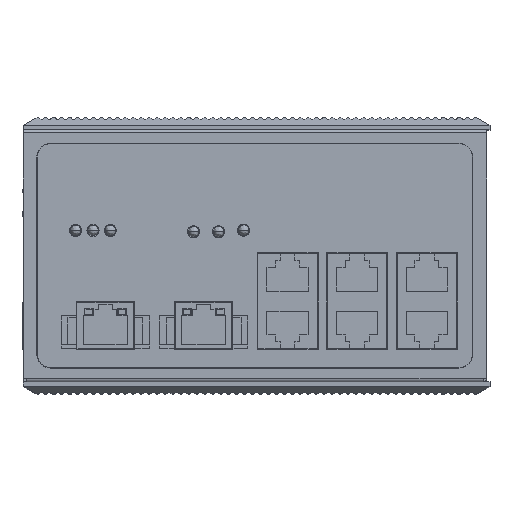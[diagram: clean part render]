
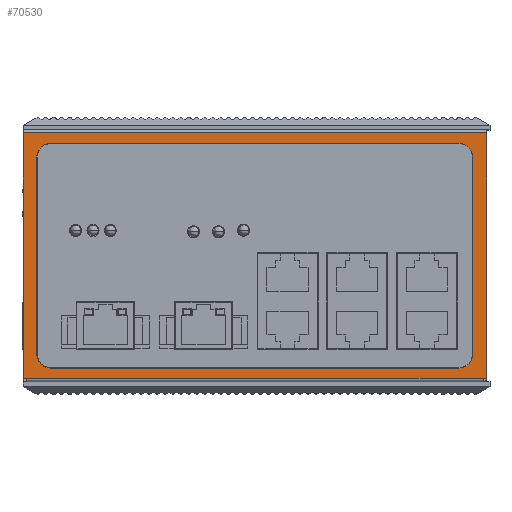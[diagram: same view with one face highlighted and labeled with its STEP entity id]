
A CAD part, top view. The second image highlights one B-rep face of the part: STEP entity #70530.
In plain terms, the highlighted planar face has unit normal (0, 0, -1).
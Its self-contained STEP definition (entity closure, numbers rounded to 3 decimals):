
#58093=DIRECTION('',(-1.,0.,0.));
#58094=VECTOR('',#58093,132.);
#58095=CARTESIAN_POINT('',(66.,0.,52.45));
#58096=LINE('',#58095,#58094);
#58101=DIRECTION('',(0.,-1.,0.));
#58102=VECTOR('',#58101,71.);
#58103=CARTESIAN_POINT('',(-67.,71.,52.45));
#58104=LINE('',#58103,#58102);
#58105=DIRECTION('',(1.,0.,0.));
#58106=VECTOR('',#58105,1.);
#58107=CARTESIAN_POINT('',(-67.,0.,52.45));
#58108=LINE('',#58107,#58106);
#58109=DIRECTION('',(1.,0.,0.));
#58110=VECTOR('',#58109,1.);
#58111=CARTESIAN_POINT('',(66.,0.,52.45));
#58112=LINE('',#58111,#58110);
#58113=DIRECTION('',(0.,1.,0.));
#58114=VECTOR('',#58113,71.);
#58115=CARTESIAN_POINT('',(67.,0.,52.45));
#58116=LINE('',#58115,#58114);
#58117=CARTESIAN_POINT('',(59.,7.,52.45));
#58118=DIRECTION('',(0.,0.,-1.));
#58119=DIRECTION('',(1.,0.,0.));
#58120=AXIS2_PLACEMENT_3D('',#58117,#58118,#58119);
#58122=CARTESIAN_POINT('',(-59.,7.,52.45));
#58123=DIRECTION('',(0.,0.,-1.));
#58124=DIRECTION('',(0.,-1.,0.));
#58125=AXIS2_PLACEMENT_3D('',#58122,#58123,#58124);
#58127=CARTESIAN_POINT('',(-59.,64.,52.45));
#58128=DIRECTION('',(0.,0.,-1.));
#58129=DIRECTION('',(-1.,0.,0.));
#58130=AXIS2_PLACEMENT_3D('',#58127,#58128,#58129);
#58132=CARTESIAN_POINT('',(59.,64.,52.45));
#58133=DIRECTION('',(0.,0.,-1.));
#58134=DIRECTION('',(0.,1.,0.));
#58135=AXIS2_PLACEMENT_3D('',#58132,#58133,#58134);
#58141=DIRECTION('',(1.,0.,0.));
#58142=VECTOR('',#58141,134.);
#58143=CARTESIAN_POINT('',(-67.,71.,52.45));
#58144=LINE('',#58143,#58142);
#62465=DIRECTION('',(0.,1.,0.));
#62466=VECTOR('',#62465,57.);
#62467=CARTESIAN_POINT('',(63.,7.,52.45));
#62468=LINE('',#62467,#62466);
#62477=DIRECTION('',(-1.,0.,0.));
#62478=VECTOR('',#62477,118.);
#62479=CARTESIAN_POINT('',(59.,68.,52.45));
#62480=LINE('',#62479,#62478);
#62489=DIRECTION('',(0.,-1.,0.));
#62490=VECTOR('',#62489,57.);
#62491=CARTESIAN_POINT('',(-63.,64.,52.45));
#62492=LINE('',#62491,#62490);
#62501=DIRECTION('',(1.,0.,0.));
#62502=VECTOR('',#62501,118.);
#62503=CARTESIAN_POINT('',(-59.,3.,52.45));
#62504=LINE('',#62503,#62502);
#63654=CARTESIAN_POINT('',(-67.,71.,52.45));
#63655=VERTEX_POINT('',#63654);
#63656=CARTESIAN_POINT('',(-67.,0.,52.45));
#63657=VERTEX_POINT('',#63656);
#63658=CARTESIAN_POINT('',(-66.,0.,52.45));
#63659=VERTEX_POINT('',#63658);
#64506=CARTESIAN_POINT('',(66.,0.,52.45));
#64507=VERTEX_POINT('',#64506);
#64508=CARTESIAN_POINT('',(67.,71.,52.45));
#64509=VERTEX_POINT('',#64508);
#64510=CARTESIAN_POINT('',(67.,0.,52.45));
#64511=VERTEX_POINT('',#64510);
#64512=CARTESIAN_POINT('',(63.,7.,52.45));
#64513=CARTESIAN_POINT('',(63.,64.,52.45));
#64514=VERTEX_POINT('',#64512);
#64515=VERTEX_POINT('',#64513);
#64516=CARTESIAN_POINT('',(59.,3.,52.45));
#64517=VERTEX_POINT('',#64516);
#64518=CARTESIAN_POINT('',(-59.,3.,52.45));
#64519=VERTEX_POINT('',#64518);
#64520=CARTESIAN_POINT('',(-63.,7.,52.45));
#64521=VERTEX_POINT('',#64520);
#64522=CARTESIAN_POINT('',(-63.,64.,52.45));
#64523=VERTEX_POINT('',#64522);
#64524=CARTESIAN_POINT('',(-59.,68.,52.45));
#64525=VERTEX_POINT('',#64524);
#64526=CARTESIAN_POINT('',(59.,68.,52.45));
#64527=VERTEX_POINT('',#64526);
#70496=CARTESIAN_POINT('',(0.,35.5,52.45));
#70497=DIRECTION('',(0.,0.,1.));
#70498=DIRECTION('',(-1.,0.,0.));
#70499=AXIS2_PLACEMENT_3D('',#70496,#70497,#70498);
#70500=PLANE('',#70499);
#70502=ORIENTED_EDGE('',*,*,#70501,.F.);
#70503=ORIENTED_EDGE('',*,*,#66438,.T.);
#70504=ORIENTED_EDGE('',*,*,#66452,.T.);
#70505=ORIENTED_EDGE('',*,*,#70487,.F.);
#70507=ORIENTED_EDGE('',*,*,#70506,.T.);
#70509=ORIENTED_EDGE('',*,*,#70508,.T.);
#70510=EDGE_LOOP('',(#70502,#70503,#70504,#70505,#70507,#70509));
#70511=FACE_OUTER_BOUND('',#70510,.F.);
#70513=ORIENTED_EDGE('',*,*,#70512,.F.);
#70515=ORIENTED_EDGE('',*,*,#70514,.T.);
#70517=ORIENTED_EDGE('',*,*,#70516,.F.);
#70519=ORIENTED_EDGE('',*,*,#70518,.T.);
#70521=ORIENTED_EDGE('',*,*,#70520,.F.);
#70523=ORIENTED_EDGE('',*,*,#70522,.T.);
#70525=ORIENTED_EDGE('',*,*,#70524,.F.);
#70527=ORIENTED_EDGE('',*,*,#70526,.T.);
#70528=EDGE_LOOP('',(#70513,#70515,#70517,#70519,#70521,#70523,#70525,#70527));
#70529=FACE_BOUND('',#70528,.F.);
#70530=ADVANCED_FACE('',(#70511,#70529),#70500,.F.);
#58121=CIRCLE('',#58120,4.);
#58126=CIRCLE('',#58125,4.);
#58131=CIRCLE('',#58130,4.);
#58136=CIRCLE('',#58135,4.);
#66438=EDGE_CURVE('',#63655,#63657,#58104,.T.);
#66452=EDGE_CURVE('',#63657,#63659,#58108,.T.);
#70487=EDGE_CURVE('',#64507,#63659,#58096,.T.);
#70501=EDGE_CURVE('',#63655,#64509,#58144,.T.);
#70506=EDGE_CURVE('',#64507,#64511,#58112,.T.);
#70508=EDGE_CURVE('',#64511,#64509,#58116,.T.);
#70512=EDGE_CURVE('',#64514,#64515,#62468,.T.);
#70514=EDGE_CURVE('',#64514,#64517,#58121,.T.);
#70516=EDGE_CURVE('',#64519,#64517,#62504,.T.);
#70518=EDGE_CURVE('',#64519,#64521,#58126,.T.);
#70520=EDGE_CURVE('',#64523,#64521,#62492,.T.);
#70522=EDGE_CURVE('',#64523,#64525,#58131,.T.);
#70524=EDGE_CURVE('',#64527,#64525,#62480,.T.);
#70526=EDGE_CURVE('',#64527,#64515,#58136,.T.);
